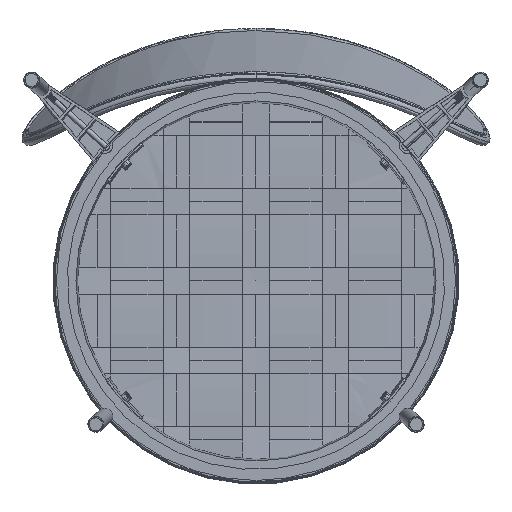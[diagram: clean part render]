
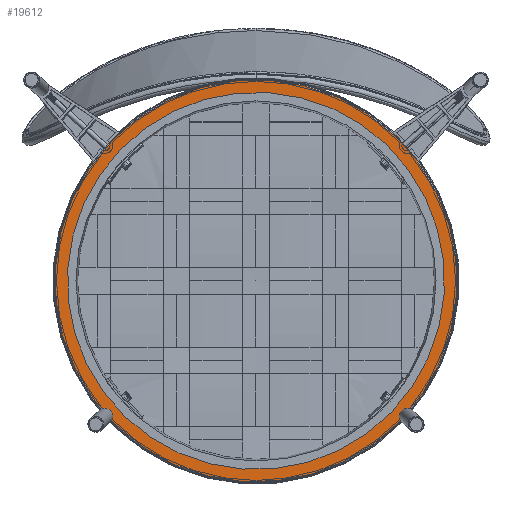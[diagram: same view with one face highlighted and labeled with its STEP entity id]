
A CAD part, front view. The second image highlights one B-rep face of the part: STEP entity #19612.
In plain terms, the highlighted planar face has unit normal (0, -1, 0).
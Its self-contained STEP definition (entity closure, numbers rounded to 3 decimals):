
#499 = VERTEX_POINT ( 'NONE', #25029 ) ;
#958 = CARTESIAN_POINT ( 'NONE',  ( 0., -1., 0. ) ) ;
#2155 = DIRECTION ( 'NONE',  ( 0., -1., 0. ) ) ;
#2918 = AXIS2_PLACEMENT_3D ( 'NONE', #958, #4061, #8958 ) ;
#3941 = EDGE_CURVE ( 'NONE', #28353, #30239, #28665, .T. ) ;
#4061 = DIRECTION ( 'NONE',  ( 0., -1., 0. ) ) ;
#4475 = PLANE ( 'NONE',  #34780 ) ;
#4897 = CARTESIAN_POINT ( 'NONE',  ( 0., -1., 0. ) ) ;
#4930 = CARTESIAN_POINT ( 'NONE',  ( 0., -1., 0. ) ) ;
#5732 = CIRCLE ( 'NONE', #7466, 213.6 ) ;
#6259 = CIRCLE ( 'NONE', #12628, 213.6 ) ;
#7466 = AXIS2_PLACEMENT_3D ( 'NONE', #29832, #35073, #10246 ) ;
#8693 = EDGE_LOOP ( 'NONE', ( #35796, #21628 ) ) ;
#8958 = DIRECTION ( 'NONE',  ( 0., 0., -1. ) ) ;
#10246 = DIRECTION ( 'NONE',  ( 0., 0., -1. ) ) ;
#11871 = ORIENTED_EDGE ( 'NONE', *, *, #19773, .T. ) ;
#11911 = EDGE_CURVE ( 'NONE', #499, #32250, #6259, .T. ) ;
#12628 = AXIS2_PLACEMENT_3D ( 'NONE', #4930, #15272, #23456 ) ;
#12794 = EDGE_CURVE ( 'NONE', #32250, #499, #5732, .T. ) ;
#13224 = DIRECTION ( 'NONE',  ( 0., 0., -1. ) ) ;
#13863 = CARTESIAN_POINT ( 'NONE',  ( 0., -1., 227.6 ) ) ;
#15272 = DIRECTION ( 'NONE',  ( 0., -1., 0. ) ) ;
#15776 = CARTESIAN_POINT ( 'NONE',  ( 0., -1., 213.6 ) ) ;
#17634 = AXIS2_PLACEMENT_3D ( 'NONE', #4897, #2155, #13224 ) ;
#17978 = CARTESIAN_POINT ( 'NONE',  ( 0., -1., -227.6 ) ) ;
#19612 = ADVANCED_FACE ( 'NONE', ( #29329, #23906 ), #4475, .F. ) ;
#19773 = EDGE_CURVE ( 'NONE', #30239, #28353, #31298, .T. ) ;
#21628 = ORIENTED_EDGE ( 'NONE', *, *, #12794, .F. ) ;
#23456 = DIRECTION ( 'NONE',  ( 0., 0., -1. ) ) ;
#23906 = FACE_OUTER_BOUND ( 'NONE', #31280, .T. ) ;
#25029 = CARTESIAN_POINT ( 'NONE',  ( 0., -1., -213.6 ) ) ;
#26440 = ORIENTED_EDGE ( 'NONE', *, *, #3941, .T. ) ;
#26627 = CARTESIAN_POINT ( 'NONE',  ( -227.6, -1., 0. ) ) ;
#28353 = VERTEX_POINT ( 'NONE', #13863 ) ;
#28665 = CIRCLE ( 'NONE', #17634, 227.6 ) ;
#29329 = FACE_BOUND ( 'NONE', #8693, .T. ) ;
#29832 = CARTESIAN_POINT ( 'NONE',  ( 0., -1., 0. ) ) ;
#30239 = VERTEX_POINT ( 'NONE', #17978 ) ;
#31280 = EDGE_LOOP ( 'NONE', ( #11871, #26440 ) ) ;
#31298 = CIRCLE ( 'NONE', #2918, 227.6 ) ;
#32214 = DIRECTION ( 'NONE',  ( 0., 0., 1. ) ) ;
#32250 = VERTEX_POINT ( 'NONE', #15776 ) ;
#34780 = AXIS2_PLACEMENT_3D ( 'NONE', #26627, #34930, #32214 ) ;
#34930 = DIRECTION ( 'NONE',  ( 0., 1., 0. ) ) ;
#35073 = DIRECTION ( 'NONE',  ( 0., -1., 0. ) ) ;
#35796 = ORIENTED_EDGE ( 'NONE', *, *, #11911, .F. ) ;
